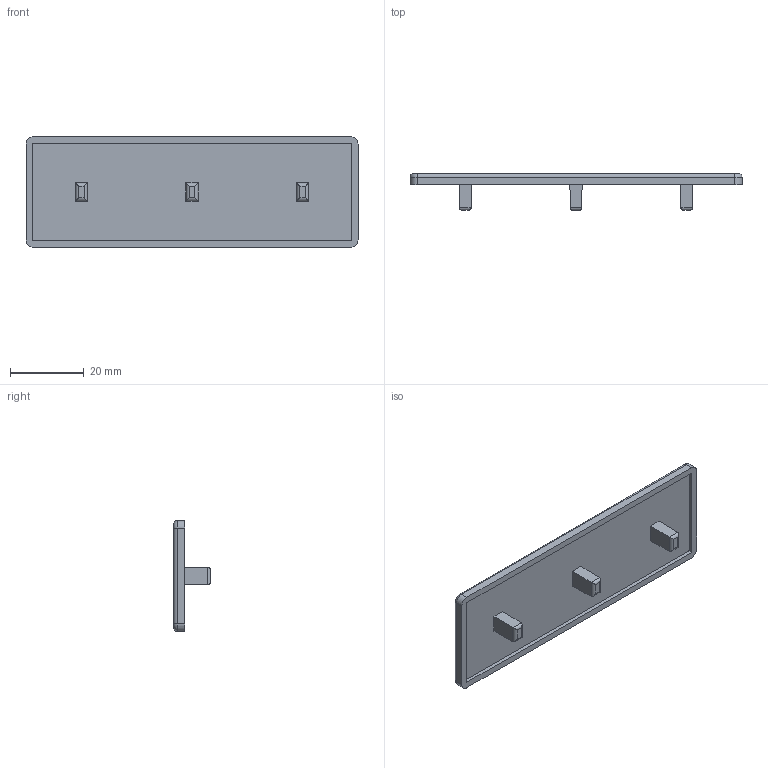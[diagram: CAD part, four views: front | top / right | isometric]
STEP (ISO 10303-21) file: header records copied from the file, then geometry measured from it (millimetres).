
FILE_DESCRIPTION (( 'STEP AP214' ), '1' );
FILE_NAME ('J3C9.step', '2017-05-24T07:38:44', ( 'admin' ), ( '' ), 'SwSTEP 2.0', 'SolidWorks 2014', '' );
FILE_SCHEMA (( 'AUTOMOTIVE_DESIGN' ));
Length unit declared in the file: millimetre
Products named in the file (1): J3C9
Bounding box: 90 x 10 x 30 mm (x, y, z)
Volume: 6124.4 mm3; surface area: 6590.8 mm2
Topology: 1 solids, 1 shells, 54 faces, 124 edges, 76 vertices
Faces by surface type: plane 26, cylinder 24, torus 4
Entity records: 1530 total; most frequent: CARTESIAN_POINT 291, DIRECTION 250, ORIENTED_EDGE 248, EDGE_CURVE 124, LINE 84, VECTOR 84, AXIS2_PLACEMENT_3D 83, VERTEX_POINT 76
